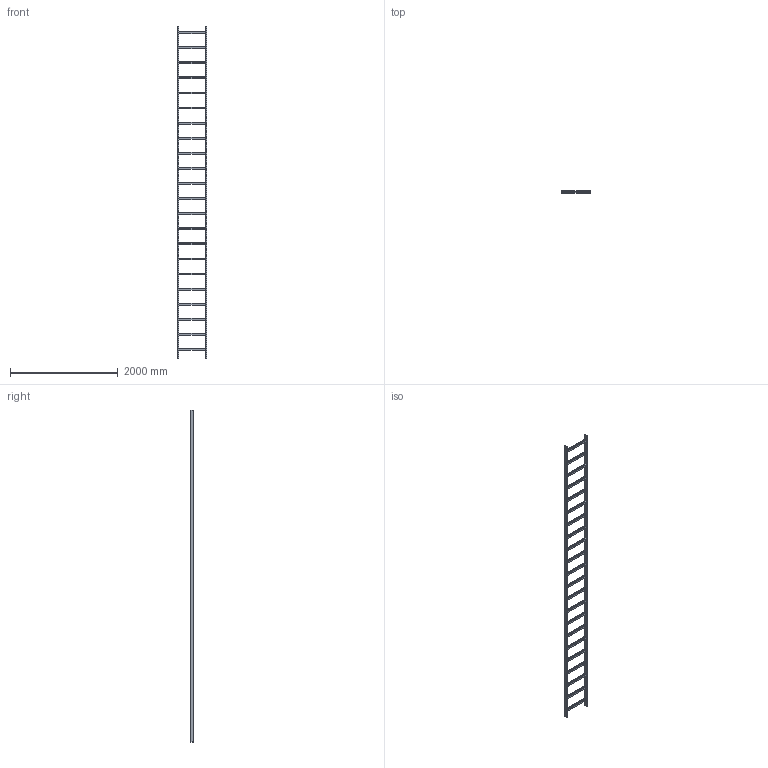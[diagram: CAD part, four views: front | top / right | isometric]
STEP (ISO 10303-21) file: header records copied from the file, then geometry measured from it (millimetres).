
FILE_DESCRIPTION((''),'2;1');
FILE_NAME('STEIGLEITER_ASM','2019-11-26T17:32:24',('Peter'),(''),'CREO PARAMETRIC BY PTC INC, 2018420','CREO PARAMETRIC BY PTC INC, 2018420','');
FILE_SCHEMA(('CONFIG_CONTROL_DESIGN'));
Length unit declared in the file: millimetre
Products named in the file (3): STEIGLEITER_RSK_RECHTECKROHR_1; STEIGLEITER_RSK_U_BEAM_ROLLED_2; STEIGLEITER_ASM
Assembly tree (24 placements, depth 2):
  STEIGLEITER_ASM
    STEIGLEITER_RSK_RECHTECKROHR_1  x2
    STEIGLEITER_RSK_U_BEAM_ROLLED_2  x22
Bounding box: 540 x 50 x 6160 mm (x, y, z)
Volume: 5280140.1 mm3; surface area: 5360370.2 mm2
Topology: 24 solids, 24 shells, 1400 faces, 4056 edges, 2704 vertices
Faces by surface type: cylinder 1160, plane 240
Entity records: 3036 total; most frequent: DIRECTION 562, CARTESIAN_POINT 487, ORIENTED_EDGE 456, EDGE_CURVE 228, AXIS2_PLACEMENT_3D 227, VERTEX_POINT 152, EDGE_LOOP 130, CIRCLE 120
